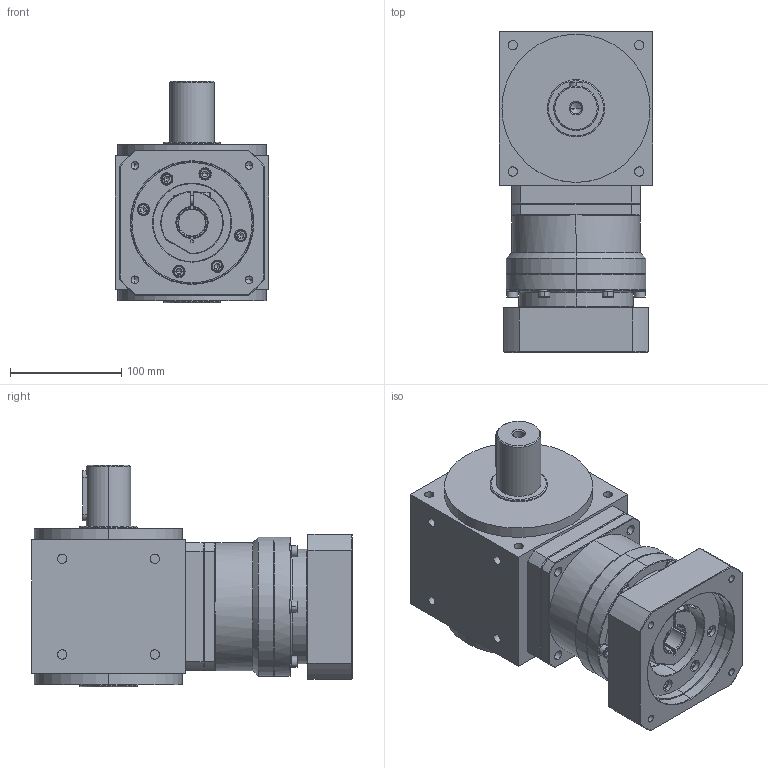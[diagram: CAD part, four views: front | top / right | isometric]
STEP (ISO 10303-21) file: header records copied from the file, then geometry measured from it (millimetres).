
FILE_DESCRIPTION (( 'STEP AP214' ), '1' );
FILE_NAME ('AAW135AS-L1-P 24-110-145-M8.STEP', '2025-04-08T09:17:25', ( '微软用户' ), ( '微软中国' ), 'SwSTEP 2.0', 'SolidWorks 2024', '' );
FILE_SCHEMA (( 'AUTOMOTIVE_DESIGN' ));
Length unit declared in the file: millimetre
Products named in the file (3): VRB-115-L1-S2-P1 24-110-145-M8; AAW135AS-P; AAW135AS-L1-P 24-110-145-M8
Assembly tree (2 placements, depth 2):
  AAW135AS-L1-P 24-110-145-M8
    AAW135AS-P
    VRB-115-L1-S2-P1 24-110-145-M8
Bounding box: 138 x 288 x 199 mm (x, y, z)
Volume: 4359817.5 mm3; surface area: 344739.7 mm2
Topology: 33 solids, 33 shells, 1073 faces, 2586 edges, 1618 vertices
Faces by surface type: plane 452, cylinder 399, cone 182, bspline 36, torus 4
Entity records: 32382 total; most frequent: CARTESIAN_POINT 6810, DIRECTION 5563, ORIENTED_EDGE 5052, EDGE_CURVE 2526, AXIS2_PLACEMENT_3D 2201, VERTEX_POINT 1618, EDGE_LOOP 1216, VECTOR 1161
